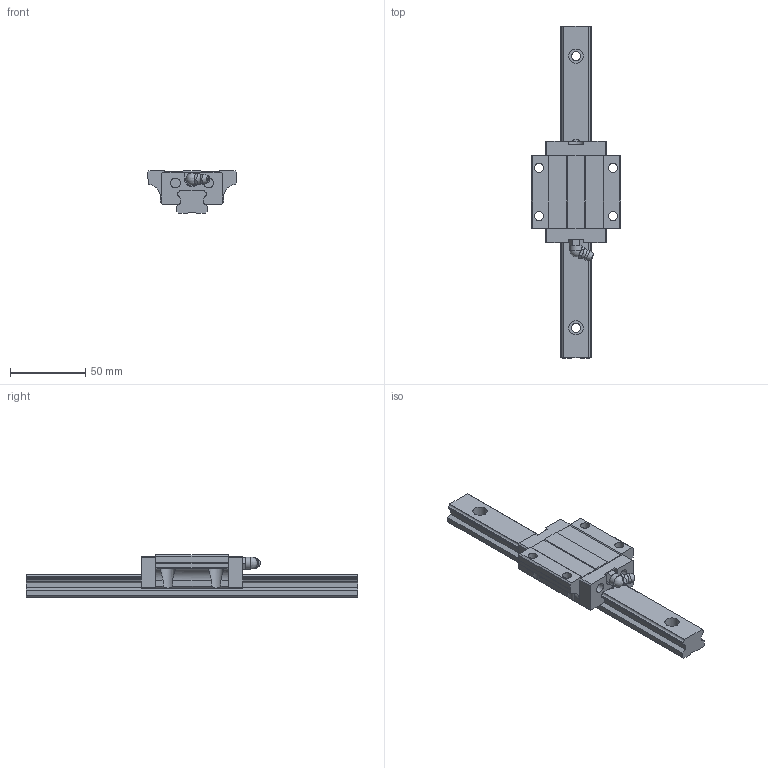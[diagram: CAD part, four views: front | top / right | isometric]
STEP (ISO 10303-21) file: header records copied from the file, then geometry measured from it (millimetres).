
FILE_DESCRIPTION(/* description */ (''),/* implementation_level */ '2;1');
FILE_NAME(/* name */ 'MSB20E',/* time_stamp */ '2004-05-24T10:13:22+08:00',/* author */ (''),/* organization */ (''),/* preprocessor_version */ 'ST-DEVELOPER v8',/* originating_system */ '',/* authorisation */ '');
FILE_SCHEMA (('CONFIG_CONTROL_DESIGN'));
Length unit declared in the file: millimetre
Products named in the file (1): zirc812C001n
Bounding box: 59 x 220 x 28 mm (x, y, z)
Volume: 109614.8 mm3; surface area: 33143.7 mm2
Topology: 3 solids, 3 shells, 193 faces, 535 edges, 354 vertices
Faces by surface type: plane 143, cylinder 39, torus 7, sphere 2, cone 1, bspline 1
Full cylindrical faces by diameter (mm): 6 x8, 6.5 x6, 8 x1, 9.5 x4
Entity records: 6173 total; most frequent: CARTESIAN_POINT 1224, ORIENTED_EDGE 1002, DIRECTION 976, EDGE_CURVE 501, LINE 360, VECTOR 360, VERTEX_POINT 344, AXIS2_PLACEMENT_3D 308
